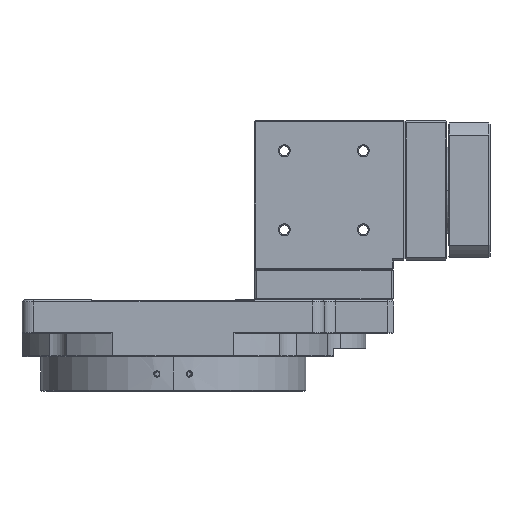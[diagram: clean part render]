
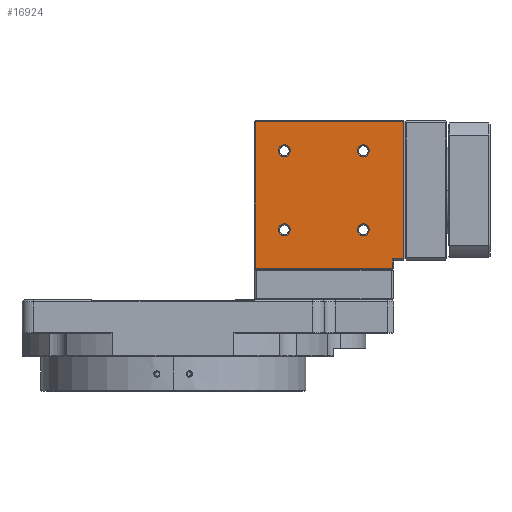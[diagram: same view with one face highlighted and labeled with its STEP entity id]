
A CAD part, left-side view. The second image highlights one B-rep face of the part: STEP entity #16924.
In plain terms, the highlighted planar face has unit normal (-1, 0, 0).
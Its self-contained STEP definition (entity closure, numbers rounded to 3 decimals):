
#26 = CARTESIAN_POINT ( 'NONE',  ( -30., -35.3, 76.5 ) ) ;
#35 = CARTESIAN_POINT ( 'NONE',  ( -30., -99.3, 76.5 ) ) ;
#55 = CARTESIAN_POINT ( 'NONE',  ( -30., -94.3, 13.5 ) ) ;
#1076 = CARTESIAN_POINT ( 'NONE',  ( -30., -99.8, 17.5 ) ) ;
#1087 = DIRECTION ( 'NONE',  ( 0., -1., 0. ) ) ;
#1135 = DIRECTION ( 'NONE',  ( 0., 1., 0. ) ) ;
#1156 = CARTESIAN_POINT ( 'NONE',  ( -30., -99.8, 76.5 ) ) ;
#1162 = CARTESIAN_POINT ( 'NONE',  ( -30., -81.8, 30. ) ) ;
#1163 = CARTESIAN_POINT ( 'NONE',  ( -30., -47.8, 30. ) ) ;
#1165 = DIRECTION ( 'NONE',  ( 0., 0., -1. ) ) ;
#1167 = CARTESIAN_POINT ( 'NONE',  ( -30., -47.8, 64. ) ) ;
#1168 = DIRECTION ( 'NONE',  ( 1., 0., 0. ) ) ;
#1170 = DIRECTION ( 'NONE',  ( 0., 1., 0. ) ) ;
#1175 = CARTESIAN_POINT ( 'NONE',  ( -30., -35.3, 13. ) ) ;
#1181 = CARTESIAN_POINT ( 'NONE',  ( -30., -94.8, 13.5 ) ) ;
#1183 = DIRECTION ( 'NONE',  ( 0., -1., 0. ) ) ;
#1185 = DIRECTION ( 'NONE',  ( 0., 1., 0. ) ) ;
#1193 = DIRECTION ( 'NONE',  ( 0., 1., 0. ) ) ;
#1195 = DIRECTION ( 'NONE',  ( 1., 0., 0. ) ) ;
#1196 = DIRECTION ( 'NONE',  ( 1., 0., 0. ) ) ;
#1204 = DIRECTION ( 'NONE',  ( 0., 1., 0. ) ) ;
#1218 = CARTESIAN_POINT ( 'NONE',  ( -30., -81.8, 64. ) ) ;
#1228 = DIRECTION ( 'NONE',  ( 1., 0., 0. ) ) ;
#2277 = VECTOR ( 'NONE', #3024, 1000. ) ;
#2303 = LINE ( 'NONE', #3055, #2277 ) ;
#2447 = VECTOR ( 'NONE', #3369, 1000. ) ;
#2480 = LINE ( 'NONE', #3348, #2447 ) ;
#2640 = CARTESIAN_POINT ( 'NONE',  ( -30., -79.2, 64. ) ) ;
#2703 = CARTESIAN_POINT ( 'NONE',  ( -30., -50.4, 64. ) ) ;
#2715 = CARTESIAN_POINT ( 'NONE',  ( -30., -45.2, 30. ) ) ;
#2749 = CARTESIAN_POINT ( 'NONE',  ( -30., -50.4, 30. ) ) ;
#2782 = CARTESIAN_POINT ( 'NONE',  ( -30., -84.4, 64. ) ) ;
#2795 = CARTESIAN_POINT ( 'NONE',  ( -30., -79.2, 30. ) ) ;
#2800 = CARTESIAN_POINT ( 'NONE',  ( -30., -45.2, 64. ) ) ;
#2833 = CARTESIAN_POINT ( 'NONE',  ( -30., -84.4, 30. ) ) ;
#3024 = DIRECTION ( 'NONE',  ( 0., 0., 1. ) ) ;
#3055 = CARTESIAN_POINT ( 'NONE',  ( -30., -99.3, 77. ) ) ;
#3348 = CARTESIAN_POINT ( 'NONE',  ( -30., -94.3, 17. ) ) ;
#3369 = DIRECTION ( 'NONE',  ( 0., 0., 1. ) ) ;
#3427 = VERTEX_POINT ( 'NONE', #26 ) ;
#3518 = AXIS2_PLACEMENT_3D ( 'NONE', #4528, #4547, #4486 ) ;
#3786 = AXIS2_PLACEMENT_3D ( 'NONE', #1162, #1195, #1193 ) ;
#3794 = AXIS2_PLACEMENT_3D ( 'NONE', #1218, #1228, #1204 ) ;
#3807 = AXIS2_PLACEMENT_3D ( 'NONE', #1167, #1168, #1170 ) ;
#3841 = AXIS2_PLACEMENT_3D ( 'NONE', #1163, #1196, #1185 ) ;
#4486 = DIRECTION ( 'NONE',  ( 0., 1., 0. ) ) ;
#4500 = PLANE ( 'NONE',  #3518 ) ;
#4528 = CARTESIAN_POINT ( 'NONE',  ( -30., -99.8, 77. ) ) ;
#4547 = DIRECTION ( 'NONE',  ( -1., 0., 0. ) ) ;
#5500 = FACE_BOUND ( 'NONE', #15446, .T. ) ;
#5506 = FACE_BOUND ( 'NONE', #15458, .T. ) ;
#5509 = FACE_BOUND ( 'NONE', #15493, .T. ) ;
#5550 = FACE_OUTER_BOUND ( 'NONE', #15457, .T. ) ;
#5560 = FACE_BOUND ( 'NONE', #15469, .T. ) ;
#6338 = LINE ( 'NONE', #1156, #6341 ) ;
#6341 = VECTOR ( 'NONE', #1135, 1000. ) ;
#6353 = VECTOR ( 'NONE', #1087, 1000. ) ;
#6373 = LINE ( 'NONE', #1076, #6353 ) ;
#6408 = CIRCLE ( 'NONE', #3841, 2.6 ) ;
#6410 = LINE ( 'NONE', #1175, #6441 ) ;
#6425 = LINE ( 'NONE', #1181, #6442 ) ;
#6429 = CIRCLE ( 'NONE', #3794, 2.6 ) ;
#6441 = VECTOR ( 'NONE', #1165, 1000. ) ;
#6442 = VECTOR ( 'NONE', #1183, 1000. ) ;
#6444 = CIRCLE ( 'NONE', #3807, 2.6 ) ;
#6446 = CIRCLE ( 'NONE', #3786, 2.6 ) ;
#6576 = VERTEX_POINT ( 'NONE', #35 ) ;
#7127 = VERTEX_POINT ( 'NONE', #55 ) ;
#8839 = VERTEX_POINT ( 'NONE', #15298 ) ;
#8887 = CARTESIAN_POINT ( 'NONE',  ( -30., -47.8, 30. ) ) ;
#8889 = DIRECTION ( 'NONE',  ( 1., 0., 0. ) ) ;
#8894 = DIRECTION ( 'NONE',  ( 0., 1., 0. ) ) ;
#9264 = DIRECTION ( 'NONE',  ( 1., 0., 0. ) ) ;
#9272 = DIRECTION ( 'NONE',  ( 0., 1., 0. ) ) ;
#9277 = CARTESIAN_POINT ( 'NONE',  ( -30., -81.8, 64. ) ) ;
#9580 = CIRCLE ( 'NONE', #12001, 2.6 ) ;
#9640 = CIRCLE ( 'NONE', #11992, 2.6 ) ;
#9767 = CIRCLE ( 'NONE', #11988, 2.6 ) ;
#9792 = CIRCLE ( 'NONE', #11983, 2.6 ) ;
#11251 = EDGE_CURVE ( 'NONE', #21150, #21243, #9580, .T. ) ;
#11279 = EDGE_CURVE ( 'NONE', #21189, #21256, #9640, .T. ) ;
#11326 = EDGE_CURVE ( 'NONE', #21263, #21175, #9767, .T. ) ;
#11350 = EDGE_CURVE ( 'NONE', #21260, #21271, #9792, .T. ) ;
#11983 = AXIS2_PLACEMENT_3D ( 'NONE', #21765, #21766, #21769 ) ;
#11988 = AXIS2_PLACEMENT_3D ( 'NONE', #21728, #21746, #21749 ) ;
#11992 = AXIS2_PLACEMENT_3D ( 'NONE', #8887, #8889, #8894 ) ;
#12001 = AXIS2_PLACEMENT_3D ( 'NONE', #9277, #9264, #9272 ) ;
#14522 = VERTEX_POINT ( 'NONE', #22403 ) ;
#14547 = VERTEX_POINT ( 'NONE', #22478 ) ;
#15298 = CARTESIAN_POINT ( 'NONE',  ( -30., -35.3, 13.5 ) ) ;
#15446 = EDGE_LOOP ( 'NONE', ( #18827, #18844 ) ) ;
#15457 = EDGE_LOOP ( 'NONE', ( #18865, #18866, #18818, #18830, #18874, #18912 ) ) ;
#15458 = EDGE_LOOP ( 'NONE', ( #18821, #18846 ) ) ;
#15469 = EDGE_LOOP ( 'NONE', ( #18819, #18848 ) ) ;
#15493 = EDGE_LOOP ( 'NONE', ( #18877, #18826 ) ) ;
#16924 = ADVANCED_FACE ( 'NONE', ( #5500, #5509, #5560, #5506, #5550 ), #4500, .T. ) ;
#18818 = ORIENTED_EDGE ( 'NONE', *, *, #20511, .T. ) ;
#18819 = ORIENTED_EDGE ( 'NONE', *, *, #11279, .T. ) ;
#18821 = ORIENTED_EDGE ( 'NONE', *, *, #11350, .T. ) ;
#18826 = ORIENTED_EDGE ( 'NONE', *, *, #20543, .T. ) ;
#18827 = ORIENTED_EDGE ( 'NONE', *, *, #11251, .T. ) ;
#18830 = ORIENTED_EDGE ( 'NONE', *, *, #21447, .T. ) ;
#18844 = ORIENTED_EDGE ( 'NONE', *, *, #20549, .T. ) ;
#18846 = ORIENTED_EDGE ( 'NONE', *, *, #20531, .T. ) ;
#18848 = ORIENTED_EDGE ( 'NONE', *, *, #20533, .T. ) ;
#18865 = ORIENTED_EDGE ( 'NONE', *, *, #20541, .T. ) ;
#18866 = ORIENTED_EDGE ( 'NONE', *, *, #21608, .T. ) ;
#18874 = ORIENTED_EDGE ( 'NONE', *, *, #20518, .T. ) ;
#18877 = ORIENTED_EDGE ( 'NONE', *, *, #11326, .T. ) ;
#18912 = ORIENTED_EDGE ( 'NONE', *, *, #20539, .T. ) ;
#20511 = EDGE_CURVE ( 'NONE', #14547, #14522, #6373, .T. ) ;
#20518 = EDGE_CURVE ( 'NONE', #6576, #3427, #6338, .T. ) ;
#20531 = EDGE_CURVE ( 'NONE', #21271, #21260, #6446, .T. ) ;
#20533 = EDGE_CURVE ( 'NONE', #21256, #21189, #6408, .T. ) ;
#20539 = EDGE_CURVE ( 'NONE', #3427, #8839, #6410, .T. ) ;
#20541 = EDGE_CURVE ( 'NONE', #8839, #7127, #6425, .T. ) ;
#20543 = EDGE_CURVE ( 'NONE', #21175, #21263, #6444, .T. ) ;
#20549 = EDGE_CURVE ( 'NONE', #21243, #21150, #6429, .T. ) ;
#21150 = VERTEX_POINT ( 'NONE', #2640 ) ;
#21175 = VERTEX_POINT ( 'NONE', #2703 ) ;
#21189 = VERTEX_POINT ( 'NONE', #2715 ) ;
#21243 = VERTEX_POINT ( 'NONE', #2782 ) ;
#21256 = VERTEX_POINT ( 'NONE', #2749 ) ;
#21260 = VERTEX_POINT ( 'NONE', #2795 ) ;
#21263 = VERTEX_POINT ( 'NONE', #2800 ) ;
#21271 = VERTEX_POINT ( 'NONE', #2833 ) ;
#21447 = EDGE_CURVE ( 'NONE', #14522, #6576, #2303, .T. ) ;
#21608 = EDGE_CURVE ( 'NONE', #7127, #14547, #2480, .T. ) ;
#21728 = CARTESIAN_POINT ( 'NONE',  ( -30., -47.8, 64. ) ) ;
#21746 = DIRECTION ( 'NONE',  ( 1., 0., 0. ) ) ;
#21749 = DIRECTION ( 'NONE',  ( 0., 1., 0. ) ) ;
#21765 = CARTESIAN_POINT ( 'NONE',  ( -30., -81.8, 30. ) ) ;
#21766 = DIRECTION ( 'NONE',  ( 1., 0., 0. ) ) ;
#21769 = DIRECTION ( 'NONE',  ( 0., 1., 0. ) ) ;
#22403 = CARTESIAN_POINT ( 'NONE',  ( -30., -99.3, 17.5 ) ) ;
#22478 = CARTESIAN_POINT ( 'NONE',  ( -30., -94.3, 17.5 ) ) ;
